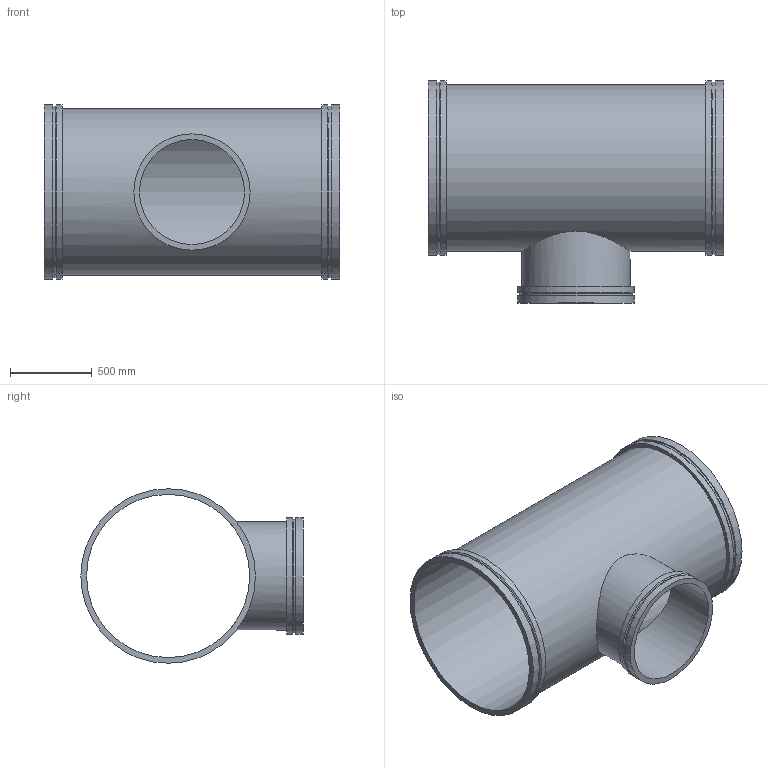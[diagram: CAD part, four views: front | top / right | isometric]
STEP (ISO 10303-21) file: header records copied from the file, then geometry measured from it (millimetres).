
FILE_DESCRIPTION(/* description */ ('VIC REDUCING TEE No W025 VR','CAx-IF Rec.Pracs.---Representation and Presentation of Product Manufacturing Information (PMI)---4.0---2014-10-13'),/* implementation_level */ '2;1');
FILE_NAME(/* name */ 'C:\Users\kkamble\AppData\Roaming\Autodesk\ApplicationPlugins\Back Up\Victaulic_Vic-Ring_Tee Reducing_No W25 VR (AGR)\Victaulic_Vic-Ring_Tee Reducing_No W25 VR (AGR)_40.0x26.0 (1000x650).stp',/* time_stamp */ '2020-09-10T11:55:37+05:00',/* author */ ('mchristi'),/* organization */ ('Victaulic'),/* preprocessor_version */ 'ST-DEVELOPER v17.2',/* originating_system */ 'Autodesk Inventor 2019',/* authorisation */ '');
FILE_SCHEMA (('AP242_MANAGED_MODEL_BASED_3D_ENGINEERING_MIM_LF { 1 0 10303 442 1 1 4 }'));
Length unit declared in the file: inch
Products named in the file (1): W25 VR-40.0x26.0
Bounding box: 1803.4 x 1358.9 x 1066.8 mm (x, y, z)
Volume: 80690910 mm3; surface area: 12921319.3 mm2
Topology: 1 solids, 1 shells, 25 faces, 68 edges, 52 vertices
Faces by surface type: cylinder 13, plane 9, cone 3
Full cylindrical faces by diameter (mm): 641.35 x1, 660.4 x1, 696.722 x1, 711.2 x2, 996.95 x1, 1016 x1, 1050.925 x2, 1066.8 x4
Entity records: 1251 total; most frequent: CARTESIAN_POINT 407, DIRECTION 190, ORIENTED_EDGE 136, AXIS2_PLACEMENT_3D 87, EDGE_CURVE 68, VERTEX_POINT 52, CIRCLE 48, EDGE_LOOP 36
